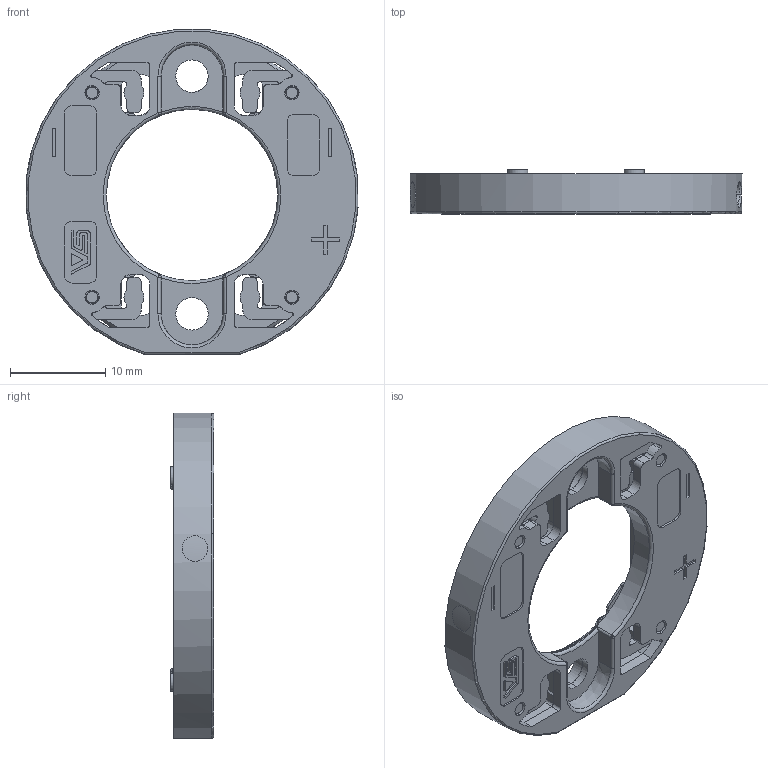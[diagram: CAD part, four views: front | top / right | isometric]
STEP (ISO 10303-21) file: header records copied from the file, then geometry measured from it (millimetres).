
FILE_DESCRIPTION(('Creo Elements/Direct Modeling STEP Export'),'2;1');
FILE_NAME('mm_89721_11846V1.stp','2015-10-02T12:47:26',(''),(''),'PTC Creo Elements/Direct Modeling STEP processor for AP214 (Solid Model)','PTC Creo Elements/Direct Modeling 19.0A 04-Oct-2014 (C) Parametric Technology GmbH','');
FILE_SCHEMA(('AUTOMOTIVE_DESIGN { 1 0 10303 214 1 1 1 1 }'));
Products named in the file (2): mm_89721_11846V1_luga_shop
Assembly tree (1 placements, depth 2):
  mm_89721_11846V1_luga_shop
    mm_89721_11846V1_luga_shop
Bounding box: 34.9 x 4.6 x 34.23 mm (x, y, z)
Volume: 2121.3 mm3; surface area: 3318 mm2
Topology: 1 solids, 1 shells, 954 faces, 2636 edges, 1674 vertices
Faces by surface type: plane 388, cylinder 277, bspline 138, torus 53, cone 50, sphere 28, extrusion 20
Entity records: 49787 total; most frequent: CARTESIAN_POINT 26959, ORIENTED_EDGE 5204, DIRECTION 4052, EDGE_CURVE 2602, VERTEX_POINT 1674, AXIS2_PLACEMENT_3D 1432, VECTOR 1188, LINE 1168
